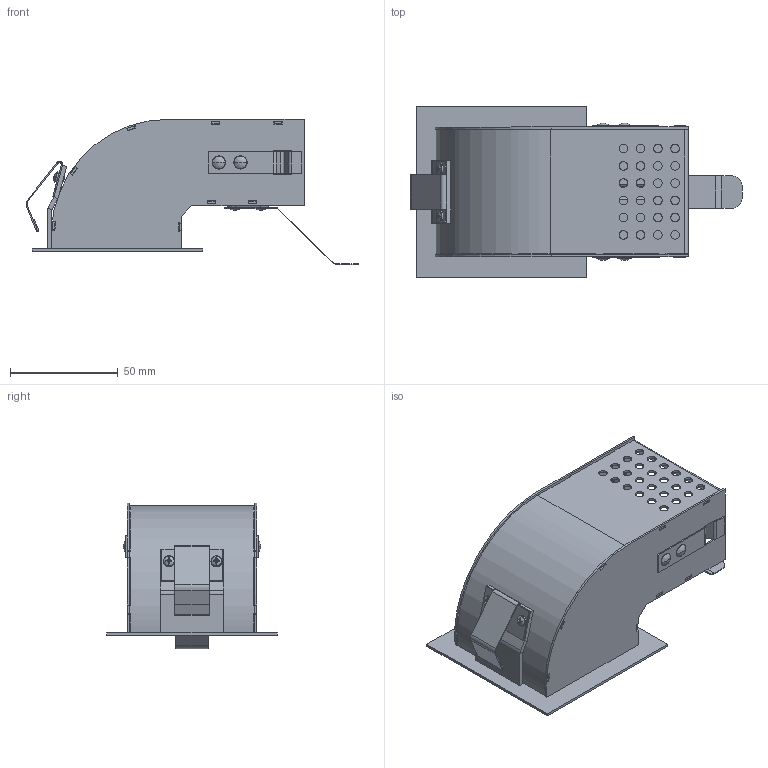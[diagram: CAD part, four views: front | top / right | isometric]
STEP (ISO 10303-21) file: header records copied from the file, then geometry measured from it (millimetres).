
FILE_DESCRIPTION (( 'STEP AP214' ), '1' );
FILE_NAME ('WG-60SCFW-RBT.STEP', '2023-02-03T20:17:53', ( '' ), ( '' ), 'SwSTEP 2.0', 'SolidWorks 2021', '' );
FILE_SCHEMA (( 'AUTOMOTIVE_DESIGN' ));
Length unit declared in the file: millimetre
Products named in the file (1): WG-60SCFW-RBT
Bounding box: 153.99 x 79 x 67.39 mm (x, y, z)
Volume: 62382.7 mm3; surface area: 130656.3 mm2
Topology: 41 solids, 41 shells, 1148 faces, 2946 edges, 1822 vertices
Faces by surface type: bspline 1148
Entity records: 38836 total; most frequent: CARTESIAN_POINT 14579, ORIENTED_EDGE 5708, DIRECTION 3370, EDGE_CURVE 2854, VERTEX_POINT 1822, LINE 1664, VECTOR 1664, EDGE_LOOP 1418
